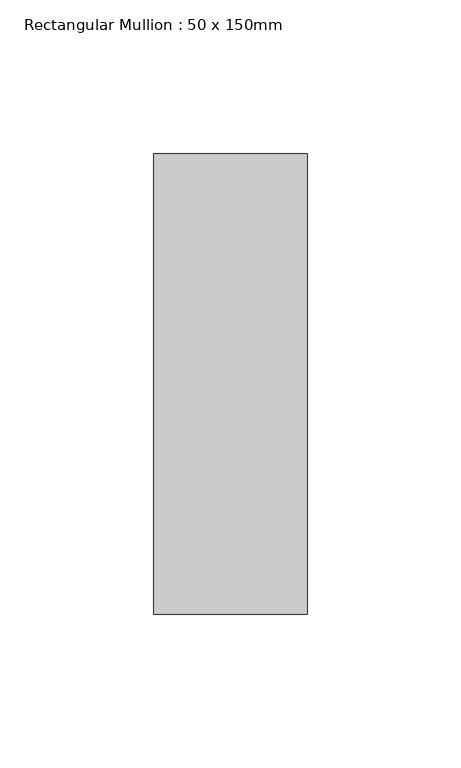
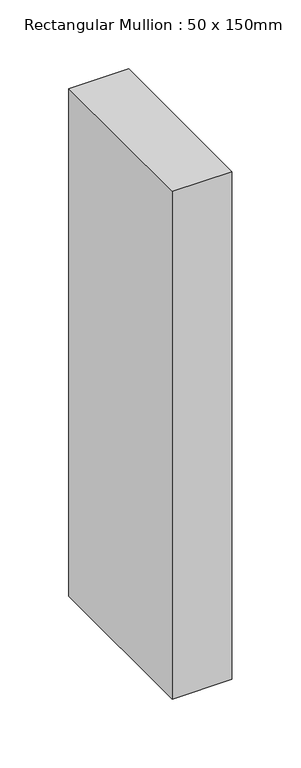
"""IFC4 building model written with IfcOpenShell, lengths in millimetres: member geometry, Rectangular Mullion : 50 x 150mm."""

from ifc_helpers import new_model, si_unit, frame, origin, place, context, project, spatial, polyline, outline, extrude, source, transform, mapped, element, save


def rectangular_mullion_50_x_150mm_567eccab(model_context):
    return source(origin(), model_context, "Body", "SweptSolid", [
        extrude(outline(polyline([(25.0, 75.0), (25.0, -75.0), (-25.0, -75.0), (-25.0, 75.0), (25.0, 75.0)])), frame((0.0, 0.0, -450.0), z_axis=(0.0, 0.0, 1.0), x_axis=(1.0, 0.0, 0.0)), (0.0, 0.0, 1.0), 450.0),
    ])


if __name__ == "__main__":
    model = new_model("IFC4")
    model_context = context("Model", 3, world=origin())
    ifc_project = project(units=[si_unit("LENGTHUNIT", "METRE", prefix="MILLI")], contexts=[model_context])
    site = spatial("IfcSite", under=ifc_project)
    building = spatial("IfcBuilding", under=site)
    placement = place(None, origin())
    rectangular_mullion_50_x_150mm_shape = rectangular_mullion_50_x_150mm_567eccab(model_context)
    element("IfcMember", 1, ObjectType="Rectangular Mullion : 50 x 150mm", at=placement, inside=building, context=model_context, shape_type="MappedRepresentation", body=[
        mapped(rectangular_mullion_50_x_150mm_shape, transform((0.0, 0.0, 0.0), x_axis=(1.0, 0.0, 0.0), y_axis=(0.0, 1.0, 0.0), z_axis=(0.0, 0.0, 1.0))),
    ])
    save(model, "model.ifc")
